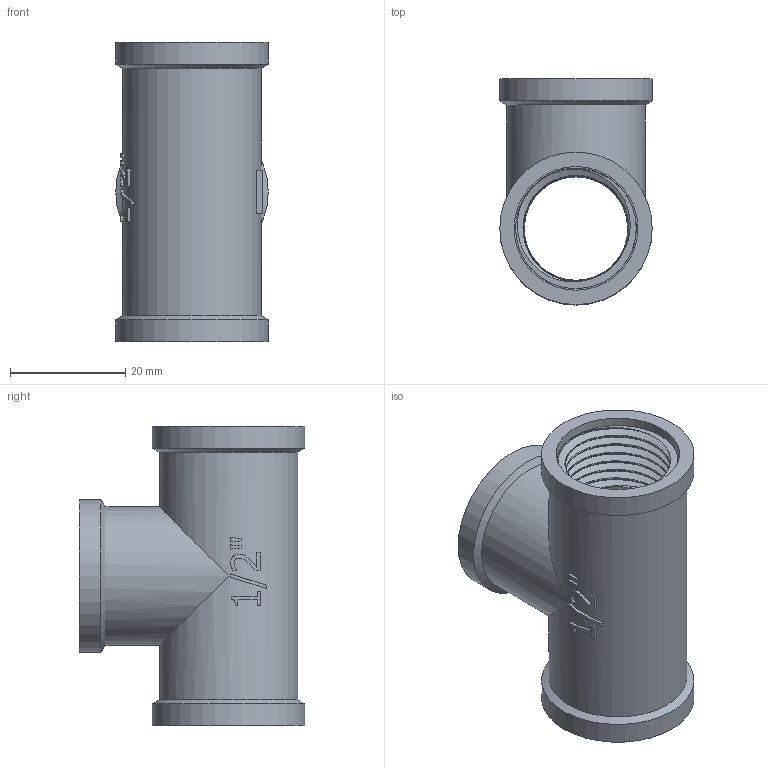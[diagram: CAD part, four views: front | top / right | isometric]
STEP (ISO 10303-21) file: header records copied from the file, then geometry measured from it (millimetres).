
FILE_DESCRIPTION(/* description */ (''),/* implementation_level */ '2;1');
FILE_NAME(/* name */ 'C:\Users\Doom\Desktop\Фадотех\Резьба\T01 18.03.2020\T01 18.03.2020.stp',/* time_stamp */ '2022-01-19T20:48:43+02:00',/* author */ ('Doom'),/* organization */ (''),/* preprocessor_version */ 'ST-DEVELOPER v18',/* originating_system */ 'Autodesk Inventor 2020',/* authorisation */ '');
FILE_SCHEMA (('AUTOMOTIVE_DESIGN { 1 0 10303 214 3 1 1 }'));
Length unit declared in the file: millimetre
Products named in the file (1): T01 18.03.2020
Bounding box: 26.5 x 39.25 x 52 mm (x, y, z)
Volume: 12651.2 mm3; surface area: 17168.2 mm2
Topology: 4 solids, 4 shells, 149 faces, 418 edges, 283 vertices
Faces by surface type: plane 64, cylinder 48, bspline 34, cone 3
Full cylindrical faces by diameter (mm): 18 x2, 18.254 x14, 18.31 x7, 20.944 x4, 21 x2, 21.5 x3, 24 x2, 26.5 x3
Entity records: 17000 total; most frequent: CARTESIAN_POINT 13396, ORIENTED_EDGE 812, DIRECTION 612, EDGE_CURVE 406, VERTEX_POINT 277, AXIS2_PLACEMENT_3D 221, EDGE_LOOP 171, LINE 170
